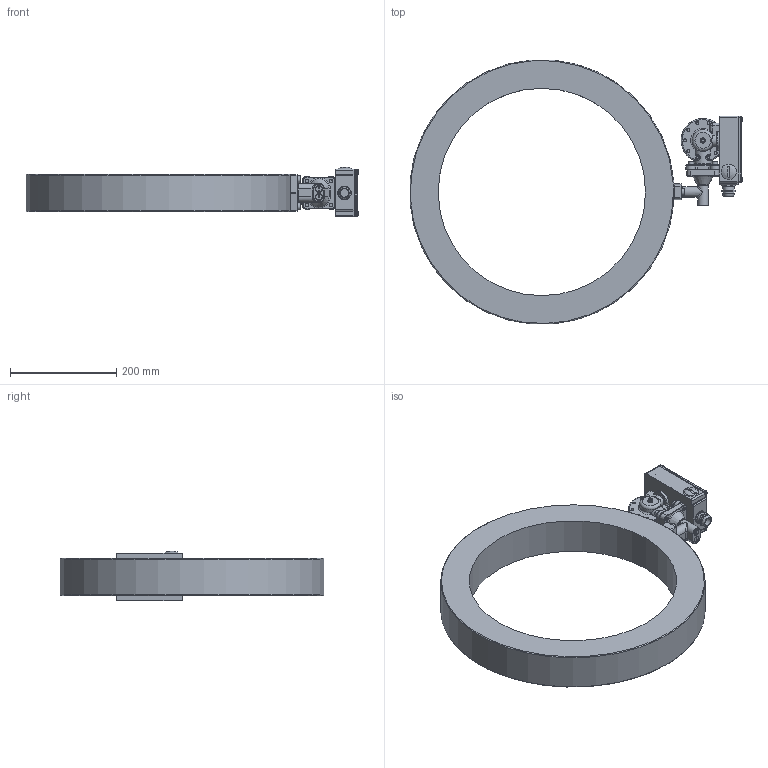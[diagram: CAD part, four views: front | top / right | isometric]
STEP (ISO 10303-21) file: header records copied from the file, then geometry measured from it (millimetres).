
FILE_DESCRIPTION(/* description */ ('Alibre Inc.'),/* implementation_level */ '2;1');
FILE_NAME(/* name */ 'export0',/* time_stamp */ '2012-10-15T13:36:35+02:00',/* author */ (''),/* organization */ (''),/* preprocessor_version */ 'ST-DEVELOPER v14',/* originating_system */ 'Alibre',/* authorisation */ '');
FILE_SCHEMA (('CONFIG_CONTROL_DESIGN'));
Length unit declared in the file: centimetre
Products named in the file (13): ID_1; ID_2; ID_3; ID_4; ID_5; ID_6; ID_7; ID_8; ID_9
Bounding box: 624.55 x 496.16 x 93.66 mm (x, y, z)
Volume: 5659901.7 mm3; surface area: 514430.8 mm2
Topology: 29 solids, 29 shells, 1094 faces, 2578 edges, 1625 vertices
Faces by surface type: plane 540, cylinder 251, bspline 168, torus 65, cone 65, sphere 5
Full cylindrical faces by diameter (mm): 5 x23, 5.5 x18, 6 x12, 6.038 x2, 6.5 x4, 7.5 x1, 8 x18, 8.3 x9, 8.5 x2, 8.7 x2, 9.6 x4, 10 x4, 11.75 x2, 11.85 x1, 12 x2, 13 x2, 14 x2, 16 x1, 17.966 x1, 22 x2, 22.5 x4, 31 x1, 32 x1, 47 x1, 56 x2, 390 x1
Entity records: 34369 total; most frequent: CARTESIAN_POINT 13997, ORIENTED_EDGE 3918, DIRECTION 3181, EDGE_CURVE 1959, VERTEX_POINT 1309, AXIS2_PLACEMENT_3D 1303, EDGE_LOOP 1146, FACE_BOUND 1146
